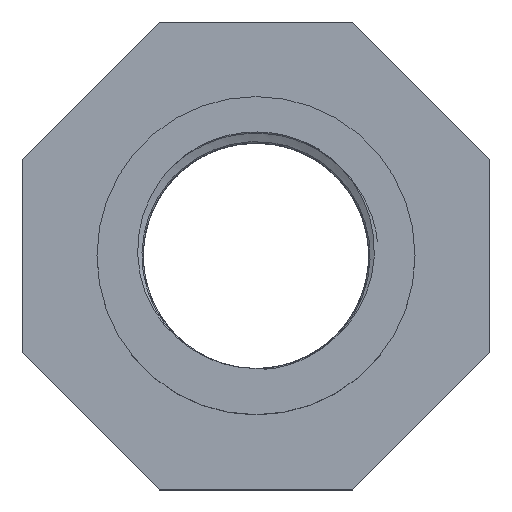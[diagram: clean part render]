
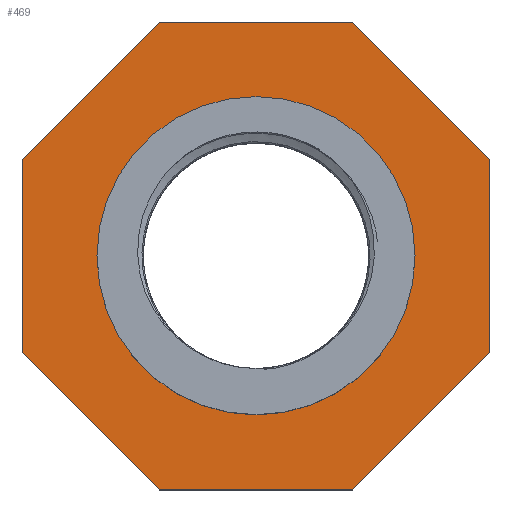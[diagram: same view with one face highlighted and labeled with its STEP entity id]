
A CAD part, top view. The second image highlights one B-rep face of the part: STEP entity #469.
In plain terms, the highlighted planar face has unit normal (0, 0, 1).
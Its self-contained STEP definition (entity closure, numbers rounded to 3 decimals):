
#16=FACE_BOUND('',#107,.T.);
#38=PLANE('',#497);
#49=CIRCLE('',#498,17.);
#76=FACE_OUTER_BOUND('',#106,.T.);
#106=EDGE_LOOP('',(#411,#412,#413,#414,#415,#416,#417,#418));
#107=EDGE_LOOP('',(#419));
#126=LINE('',#7957,#156);
#130=LINE('',#7965,#160);
#133=LINE('',#7971,#163);
#136=LINE('',#7977,#166);
#139=LINE('',#7983,#169);
#142=LINE('',#7989,#172);
#145=LINE('',#7995,#175);
#148=LINE('',#8000,#178);
#156=VECTOR('',#539,20.711);
#160=VECTOR('',#545,20.711);
#163=VECTOR('',#550,20.711);
#166=VECTOR('',#555,20.711);
#169=VECTOR('',#560,20.711);
#172=VECTOR('',#565,20.711);
#175=VECTOR('',#570,20.711);
#178=VECTOR('',#575,20.711);
#224=VERTEX_POINT('',#7955);
#225=VERTEX_POINT('',#7956);
#228=VERTEX_POINT('',#7964);
#230=VERTEX_POINT('',#7970);
#232=VERTEX_POINT('',#7976);
#234=VERTEX_POINT('',#7982);
#236=VERTEX_POINT('',#7988);
#238=VERTEX_POINT('',#7994);
#240=VERTEX_POINT('',#8004);
#280=EDGE_CURVE('',#224,#225,#126,.T.);
#284=EDGE_CURVE('',#228,#224,#130,.T.);
#287=EDGE_CURVE('',#230,#228,#133,.T.);
#290=EDGE_CURVE('',#232,#230,#136,.T.);
#293=EDGE_CURVE('',#234,#232,#139,.T.);
#296=EDGE_CURVE('',#236,#234,#142,.T.);
#299=EDGE_CURVE('',#238,#236,#145,.T.);
#302=EDGE_CURVE('',#225,#238,#148,.T.);
#304=EDGE_CURVE('',#240,#240,#49,.T.);
#411=ORIENTED_EDGE('',*,*,#302,.F.);
#412=ORIENTED_EDGE('',*,*,#280,.F.);
#413=ORIENTED_EDGE('',*,*,#284,.F.);
#414=ORIENTED_EDGE('',*,*,#287,.F.);
#415=ORIENTED_EDGE('',*,*,#290,.F.);
#416=ORIENTED_EDGE('',*,*,#293,.F.);
#417=ORIENTED_EDGE('',*,*,#296,.F.);
#418=ORIENTED_EDGE('',*,*,#299,.F.);
#419=ORIENTED_EDGE('',*,*,#304,.F.);
#469=ADVANCED_FACE('',(#76,#16),#38,.T.);
#497=AXIS2_PLACEMENT_3D('',#8003,#579,#580);
#498=AXIS2_PLACEMENT_3D('',#8005,#581,#582);
#539=DIRECTION('',(1.,0.,0.));
#545=DIRECTION('',(0.707,0.707,0.));
#550=DIRECTION('',(0.,1.,0.));
#555=DIRECTION('',(-0.707,0.707,0.));
#560=DIRECTION('',(-1.,0.,0.));
#565=DIRECTION('',(-0.707,-0.707,0.));
#570=DIRECTION('',(0.,-1.,0.));
#575=DIRECTION('',(0.707,-0.707,0.));
#579=DIRECTION('center_axis',(0.,0.,1.));
#580=DIRECTION('ref_axis',(1.,0.,0.));
#581=DIRECTION('center_axis',(0.,0.,1.));
#582=DIRECTION('ref_axis',(1.,0.,0.));
#7955=CARTESIAN_POINT('',(-10.355,25.,36.));
#7956=CARTESIAN_POINT('',(10.355,25.,36.));
#7957=CARTESIAN_POINT('',(-10.355,25.,36.));
#7964=CARTESIAN_POINT('',(-25.,10.355,36.));
#7965=CARTESIAN_POINT('',(-25.,10.355,36.));
#7970=CARTESIAN_POINT('',(-25.,-10.355,36.));
#7971=CARTESIAN_POINT('',(-25.,-10.355,36.));
#7976=CARTESIAN_POINT('',(-10.355,-25.,36.));
#7977=CARTESIAN_POINT('',(-10.355,-25.,36.));
#7982=CARTESIAN_POINT('',(10.355,-25.,36.));
#7983=CARTESIAN_POINT('',(10.355,-25.,36.));
#7988=CARTESIAN_POINT('',(25.,-10.355,36.));
#7989=CARTESIAN_POINT('',(25.,-10.355,36.));
#7994=CARTESIAN_POINT('',(25.,10.355,36.));
#7995=CARTESIAN_POINT('',(25.,10.355,36.));
#8000=CARTESIAN_POINT('',(10.355,25.,36.));
#8003=CARTESIAN_POINT('Origin',(17.,0.,36.));
#8004=CARTESIAN_POINT('',(17.,0.,36.));
#8005=CARTESIAN_POINT('Origin',(0.,0.,36.));
